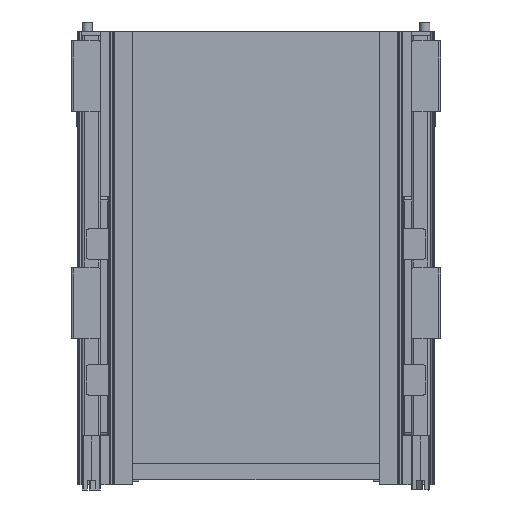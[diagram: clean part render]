
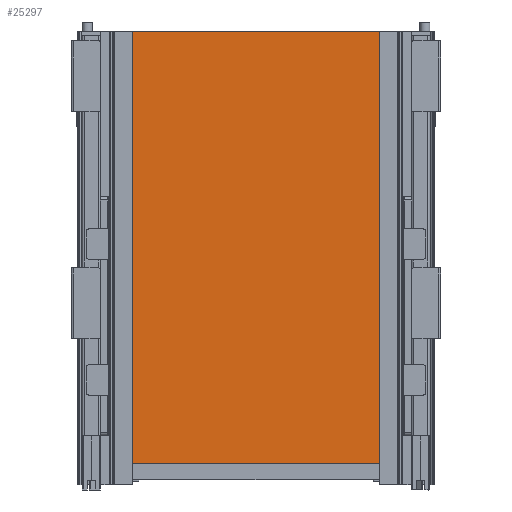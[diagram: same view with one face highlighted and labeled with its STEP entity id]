
A CAD part, front view. The second image highlights one B-rep face of the part: STEP entity #25297.
In plain terms, the highlighted planar face has unit normal (0, -1, 0).
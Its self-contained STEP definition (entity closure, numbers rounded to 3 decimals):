
#1603=PLANE('',#27622);
#2895=FACE_OUTER_BOUND('',#4389,.T.);
#4389=EDGE_LOOP('',(#22661,#22662,#22663,#22664));
#7775=LINE('',#41666,#10195);
#7779=LINE('',#41674,#10199);
#7782=LINE('',#41680,#10202);
#7785=LINE('',#41685,#10205);
#10195=VECTOR('',#34630,426.);
#10199=VECTOR('',#34636,278.);
#10202=VECTOR('',#34641,426.);
#10205=VECTOR('',#34646,278.);
#12433=VERTEX_POINT('',#41664);
#12434=VERTEX_POINT('',#41665);
#12437=VERTEX_POINT('',#41673);
#12439=VERTEX_POINT('',#41679);
#15837=EDGE_CURVE('',#12433,#12434,#7775,.T.);
#15841=EDGE_CURVE('',#12434,#12437,#7779,.T.);
#15844=EDGE_CURVE('',#12437,#12439,#7782,.T.);
#15847=EDGE_CURVE('',#12439,#12433,#7785,.T.);
#22661=ORIENTED_EDGE('',*,*,#15847,.T.);
#22662=ORIENTED_EDGE('',*,*,#15837,.T.);
#22663=ORIENTED_EDGE('',*,*,#15841,.T.);
#22664=ORIENTED_EDGE('',*,*,#15844,.T.);
#25297=ADVANCED_FACE('',(#2895),#1603,.T.);
#27622=AXIS2_PLACEMENT_3D('',#41687,#34648,#34649);
#34630=DIRECTION('',(0.,0.,-1.));
#34636=DIRECTION('',(1.,0.,0.));
#34641=DIRECTION('',(0.,0.,1.));
#34646=DIRECTION('',(-1.,0.,0.));
#34648=DIRECTION('center_axis',(0.,-1.,0.));
#34649=DIRECTION('ref_axis',(0.,0.,-1.));
#41664=CARTESIAN_POINT('',(-139.,0.,213.));
#41665=CARTESIAN_POINT('',(-139.,0.,-213.));
#41666=CARTESIAN_POINT('',(-139.,0.,213.));
#41673=CARTESIAN_POINT('',(139.,0.,-213.));
#41674=CARTESIAN_POINT('',(-139.,0.,-213.));
#41679=CARTESIAN_POINT('',(139.,0.,213.));
#41680=CARTESIAN_POINT('',(139.,0.,-213.));
#41685=CARTESIAN_POINT('',(139.,0.,213.));
#41687=CARTESIAN_POINT('Origin',(0.,0.,0.));
